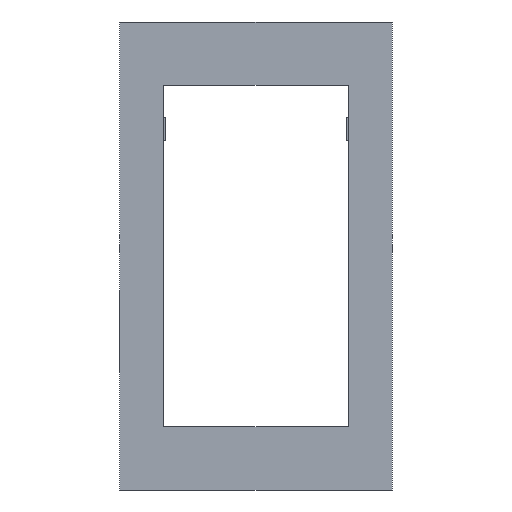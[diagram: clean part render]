
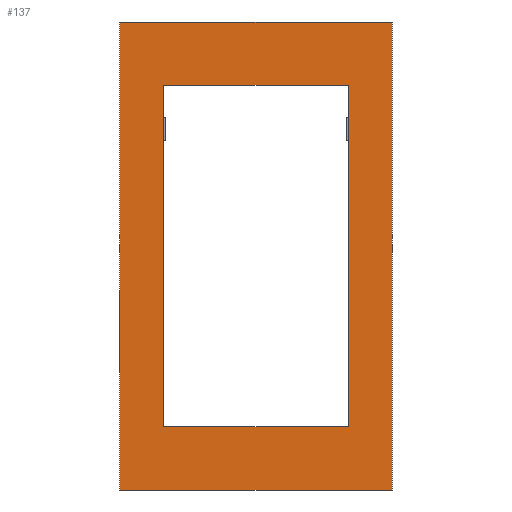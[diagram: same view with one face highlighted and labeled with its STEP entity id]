
A CAD part, front view. The second image highlights one B-rep face of the part: STEP entity #137.
In plain terms, the highlighted planar face has unit normal (0, -1, 0).
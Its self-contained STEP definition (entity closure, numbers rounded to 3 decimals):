
#21 = EDGE_CURVE('',#22,#24,#26,.T.);
#22 = VERTEX_POINT('',#23);
#23 = CARTESIAN_POINT('',(4.,78.4,18.));
#24 = VERTEX_POINT('',#25);
#25 = CARTESIAN_POINT('',(4.,78.4,77.));
#26 = SURFACE_CURVE('',#27,(#31,#43),.PCURVE_S1.);
#27 = LINE('',#28,#29);
#28 = CARTESIAN_POINT('',(4.,78.4,18.));
#29 = VECTOR('',#30,1.);
#30 = DIRECTION('',(0.,0.,1.));
#31 = PCURVE('',#32,#37);
#32 = PLANE('',#33);
#33 = AXIS2_PLACEMENT_3D('',#34,#35,#36);
#34 = CARTESIAN_POINT('',(4.,78.4,18.));
#35 = DIRECTION('',(1.,0.,0.));
#36 = DIRECTION('',(0.,0.,1.));
#37 = DEFINITIONAL_REPRESENTATION('',(#38),#42);
#38 = LINE('',#39,#40);
#39 = CARTESIAN_POINT('',(0.,0.));
#40 = VECTOR('',#41,1.);
#41 = DIRECTION('',(1.,0.));
#42 = ( GEOMETRIC_REPRESENTATION_CONTEXT(2) 
PARAMETRIC_REPRESENTATION_CONTEXT() REPRESENTATION_CONTEXT('2D SPACE',''
  ) );
#43 = PCURVE('',#44,#49);
#44 = PLANE('',#45);
#45 = AXIS2_PLACEMENT_3D('',#46,#47,#48);
#46 = CARTESIAN_POINT('',(4.,78.4,18.));
#47 = DIRECTION('',(0.,1.,0.));
#48 = DIRECTION('',(0.,0.,1.));
#49 = DEFINITIONAL_REPRESENTATION('',(#50),#54);
#50 = LINE('',#51,#52);
#51 = CARTESIAN_POINT('',(0.,0.));
#52 = VECTOR('',#53,1.);
#53 = DIRECTION('',(1.,0.));
#54 = ( GEOMETRIC_REPRESENTATION_CONTEXT(2) 
PARAMETRIC_REPRESENTATION_CONTEXT() REPRESENTATION_CONTEXT('2D SPACE',''
  ) );
#72 = PLANE('',#73);
#73 = AXIS2_PLACEMENT_3D('',#74,#75,#76);
#74 = CARTESIAN_POINT('',(4.,78.4,18.));
#75 = DIRECTION('',(0.,0.,1.));
#76 = DIRECTION('',(1.,0.,0.));
#126 = PLANE('',#127);
#127 = AXIS2_PLACEMENT_3D('',#128,#129,#130);
#128 = CARTESIAN_POINT('',(4.,78.4,77.));
#129 = DIRECTION('',(0.,0.,1.));
#130 = DIRECTION('',(1.,0.,0.));
#137 = ADVANCED_FACE('',(#138,#213),#44,.F.);
#138 = FACE_BOUND('',#139,.F.);
#139 = EDGE_LOOP('',(#140,#163,#164,#187));
#140 = ORIENTED_EDGE('',*,*,#141,.F.);
#141 = EDGE_CURVE('',#22,#142,#144,.T.);
#142 = VERTEX_POINT('',#143);
#143 = CARTESIAN_POINT('',(38.3,78.4,18.));
#144 = SURFACE_CURVE('',#145,(#149,#156),.PCURVE_S1.);
#145 = LINE('',#146,#147);
#146 = CARTESIAN_POINT('',(4.,78.4,18.));
#147 = VECTOR('',#148,1.);
#148 = DIRECTION('',(1.,0.,0.));
#149 = PCURVE('',#44,#150);
#150 = DEFINITIONAL_REPRESENTATION('',(#151),#155);
#151 = LINE('',#152,#153);
#152 = CARTESIAN_POINT('',(0.,0.));
#153 = VECTOR('',#154,1.);
#154 = DIRECTION('',(0.,1.));
#155 = ( GEOMETRIC_REPRESENTATION_CONTEXT(2) 
PARAMETRIC_REPRESENTATION_CONTEXT() REPRESENTATION_CONTEXT('2D SPACE',''
  ) );
#156 = PCURVE('',#72,#157);
#157 = DEFINITIONAL_REPRESENTATION('',(#158),#162);
#158 = LINE('',#159,#160);
#159 = CARTESIAN_POINT('',(0.,0.));
#160 = VECTOR('',#161,1.);
#161 = DIRECTION('',(1.,0.));
#162 = ( GEOMETRIC_REPRESENTATION_CONTEXT(2) 
PARAMETRIC_REPRESENTATION_CONTEXT() REPRESENTATION_CONTEXT('2D SPACE',''
  ) );
#163 = ORIENTED_EDGE('',*,*,#21,.T.);
#164 = ORIENTED_EDGE('',*,*,#165,.T.);
#165 = EDGE_CURVE('',#24,#166,#168,.T.);
#166 = VERTEX_POINT('',#167);
#167 = CARTESIAN_POINT('',(38.3,78.4,77.));
#168 = SURFACE_CURVE('',#169,(#173,#180),.PCURVE_S1.);
#169 = LINE('',#170,#171);
#170 = CARTESIAN_POINT('',(4.,78.4,77.));
#171 = VECTOR('',#172,1.);
#172 = DIRECTION('',(1.,0.,0.));
#173 = PCURVE('',#44,#174);
#174 = DEFINITIONAL_REPRESENTATION('',(#175),#179);
#175 = LINE('',#176,#177);
#176 = CARTESIAN_POINT('',(59.,0.));
#177 = VECTOR('',#178,1.);
#178 = DIRECTION('',(0.,1.));
#179 = ( GEOMETRIC_REPRESENTATION_CONTEXT(2) 
PARAMETRIC_REPRESENTATION_CONTEXT() REPRESENTATION_CONTEXT('2D SPACE',''
  ) );
#180 = PCURVE('',#126,#181);
#181 = DEFINITIONAL_REPRESENTATION('',(#182),#186);
#182 = LINE('',#183,#184);
#183 = CARTESIAN_POINT('',(0.,0.));
#184 = VECTOR('',#185,1.);
#185 = DIRECTION('',(1.,0.));
#186 = ( GEOMETRIC_REPRESENTATION_CONTEXT(2) 
PARAMETRIC_REPRESENTATION_CONTEXT() REPRESENTATION_CONTEXT('2D SPACE',''
  ) );
#187 = ORIENTED_EDGE('',*,*,#188,.F.);
#188 = EDGE_CURVE('',#142,#166,#189,.T.);
#189 = SURFACE_CURVE('',#190,(#194,#201),.PCURVE_S1.);
#190 = LINE('',#191,#192);
#191 = CARTESIAN_POINT('',(38.3,78.4,18.));
#192 = VECTOR('',#193,1.);
#193 = DIRECTION('',(0.,0.,1.));
#194 = PCURVE('',#44,#195);
#195 = DEFINITIONAL_REPRESENTATION('',(#196),#200);
#196 = LINE('',#197,#198);
#197 = CARTESIAN_POINT('',(0.,34.3));
#198 = VECTOR('',#199,1.);
#199 = DIRECTION('',(1.,0.));
#200 = ( GEOMETRIC_REPRESENTATION_CONTEXT(2) 
PARAMETRIC_REPRESENTATION_CONTEXT() REPRESENTATION_CONTEXT('2D SPACE',''
  ) );
#201 = PCURVE('',#202,#207);
#202 = PLANE('',#203);
#203 = AXIS2_PLACEMENT_3D('',#204,#205,#206);
#204 = CARTESIAN_POINT('',(38.3,78.4,18.));
#205 = DIRECTION('',(1.,0.,0.));
#206 = DIRECTION('',(0.,0.,1.));
#207 = DEFINITIONAL_REPRESENTATION('',(#208),#212);
#208 = LINE('',#209,#210);
#209 = CARTESIAN_POINT('',(0.,0.));
#210 = VECTOR('',#211,1.);
#211 = DIRECTION('',(1.,0.));
#212 = ( GEOMETRIC_REPRESENTATION_CONTEXT(2) 
PARAMETRIC_REPRESENTATION_CONTEXT() REPRESENTATION_CONTEXT('2D SPACE',''
  ) );
#213 = FACE_BOUND('',#214,.F.);
#214 = EDGE_LOOP('',(#215,#244,#272,#299));
#215 = ORIENTED_EDGE('',*,*,#216,.F.);
#216 = EDGE_CURVE('',#217,#219,#221,.T.);
#217 = VERTEX_POINT('',#218);
#218 = CARTESIAN_POINT('',(9.5,78.4,69.));
#219 = VERTEX_POINT('',#220);
#220 = CARTESIAN_POINT('',(32.8,78.4,69.));
#221 = SURFACE_CURVE('',#222,(#226,#233),.PCURVE_S1.);
#222 = LINE('',#223,#224);
#223 = CARTESIAN_POINT('',(6.,78.4,69.));
#224 = VECTOR('',#225,1.);
#225 = DIRECTION('',(1.,0.,0.));
#226 = PCURVE('',#44,#227);
#227 = DEFINITIONAL_REPRESENTATION('',(#228),#232);
#228 = LINE('',#229,#230);
#229 = CARTESIAN_POINT('',(51.,2.));
#230 = VECTOR('',#231,1.);
#231 = DIRECTION('',(0.,1.));
#232 = ( GEOMETRIC_REPRESENTATION_CONTEXT(2) 
PARAMETRIC_REPRESENTATION_CONTEXT() REPRESENTATION_CONTEXT('2D SPACE',''
  ) );
#233 = PCURVE('',#234,#239);
#234 = PLANE('',#235);
#235 = AXIS2_PLACEMENT_3D('',#236,#237,#238);
#236 = CARTESIAN_POINT('',(8.,78.3,69.));
#237 = DIRECTION('',(0.,0.,1.));
#238 = DIRECTION('',(1.,0.,0.));
#239 = DEFINITIONAL_REPRESENTATION('',(#240),#243);
#240 = B_SPLINE_CURVE_WITH_KNOTS('',1,(#241,#242),.UNSPECIFIED.,.F.,.F.,
  (2,2),(2.,28.3),.PIECEWISE_BEZIER_KNOTS.);
#241 = CARTESIAN_POINT('',(0.,0.1));
#242 = CARTESIAN_POINT('',(26.3,0.1));
#243 = ( GEOMETRIC_REPRESENTATION_CONTEXT(2) 
PARAMETRIC_REPRESENTATION_CONTEXT() REPRESENTATION_CONTEXT('2D SPACE',''
  ) );
#244 = ORIENTED_EDGE('',*,*,#245,.F.);
#245 = EDGE_CURVE('',#246,#217,#248,.T.);
#246 = VERTEX_POINT('',#247);
#247 = CARTESIAN_POINT('',(9.5,78.4,26.));
#248 = SURFACE_CURVE('',#249,(#253,#260),.PCURVE_S1.);
#249 = LINE('',#250,#251);
#250 = CARTESIAN_POINT('',(9.5,78.4,26.));
#251 = VECTOR('',#252,1.);
#252 = DIRECTION('',(0.,0.,1.));
#253 = PCURVE('',#44,#254);
#254 = DEFINITIONAL_REPRESENTATION('',(#255),#259);
#255 = LINE('',#256,#257);
#256 = CARTESIAN_POINT('',(8.,5.5));
#257 = VECTOR('',#258,1.);
#258 = DIRECTION('',(1.,0.));
#259 = ( GEOMETRIC_REPRESENTATION_CONTEXT(2) 
PARAMETRIC_REPRESENTATION_CONTEXT() REPRESENTATION_CONTEXT('2D SPACE',''
  ) );
#260 = PCURVE('',#261,#266);
#261 = PLANE('',#262);
#262 = AXIS2_PLACEMENT_3D('',#263,#264,#265);
#263 = CARTESIAN_POINT('',(9.5,78.4,26.));
#264 = DIRECTION('',(1.,0.,0.));
#265 = DIRECTION('',(0.,0.,1.));
#266 = DEFINITIONAL_REPRESENTATION('',(#267),#271);
#267 = LINE('',#268,#269);
#268 = CARTESIAN_POINT('',(0.,0.));
#269 = VECTOR('',#270,1.);
#270 = DIRECTION('',(1.,0.));
#271 = ( GEOMETRIC_REPRESENTATION_CONTEXT(2) 
PARAMETRIC_REPRESENTATION_CONTEXT() REPRESENTATION_CONTEXT('2D SPACE',''
  ) );
#272 = ORIENTED_EDGE('',*,*,#273,.T.);
#273 = EDGE_CURVE('',#246,#274,#276,.T.);
#274 = VERTEX_POINT('',#275);
#275 = CARTESIAN_POINT('',(32.8,78.4,26.));
#276 = SURFACE_CURVE('',#277,(#281,#288),.PCURVE_S1.);
#277 = LINE('',#278,#279);
#278 = CARTESIAN_POINT('',(6.,78.4,26.));
#279 = VECTOR('',#280,1.);
#280 = DIRECTION('',(1.,0.,0.));
#281 = PCURVE('',#44,#282);
#282 = DEFINITIONAL_REPRESENTATION('',(#283),#287);
#283 = LINE('',#284,#285);
#284 = CARTESIAN_POINT('',(8.,2.));
#285 = VECTOR('',#286,1.);
#286 = DIRECTION('',(0.,1.));
#287 = ( GEOMETRIC_REPRESENTATION_CONTEXT(2) 
PARAMETRIC_REPRESENTATION_CONTEXT() REPRESENTATION_CONTEXT('2D SPACE',''
  ) );
#288 = PCURVE('',#289,#294);
#289 = PLANE('',#290);
#290 = AXIS2_PLACEMENT_3D('',#291,#292,#293);
#291 = CARTESIAN_POINT('',(8.,78.3,26.));
#292 = DIRECTION('',(0.,0.,1.));
#293 = DIRECTION('',(1.,0.,0.));
#294 = DEFINITIONAL_REPRESENTATION('',(#295),#298);
#295 = B_SPLINE_CURVE_WITH_KNOTS('',1,(#296,#297),.UNSPECIFIED.,.F.,.F.,
  (2,2),(2.,28.3),.PIECEWISE_BEZIER_KNOTS.);
#296 = CARTESIAN_POINT('',(0.,0.1));
#297 = CARTESIAN_POINT('',(26.3,0.1));
#298 = ( GEOMETRIC_REPRESENTATION_CONTEXT(2) 
PARAMETRIC_REPRESENTATION_CONTEXT() REPRESENTATION_CONTEXT('2D SPACE',''
  ) );
#299 = ORIENTED_EDGE('',*,*,#300,.T.);
#300 = EDGE_CURVE('',#274,#219,#301,.T.);
#301 = SURFACE_CURVE('',#302,(#306,#313),.PCURVE_S1.);
#302 = LINE('',#303,#304);
#303 = CARTESIAN_POINT('',(32.8,78.4,26.));
#304 = VECTOR('',#305,1.);
#305 = DIRECTION('',(0.,0.,1.));
#306 = PCURVE('',#44,#307);
#307 = DEFINITIONAL_REPRESENTATION('',(#308),#312);
#308 = LINE('',#309,#310);
#309 = CARTESIAN_POINT('',(8.,28.8));
#310 = VECTOR('',#311,1.);
#311 = DIRECTION('',(1.,0.));
#312 = ( GEOMETRIC_REPRESENTATION_CONTEXT(2) 
PARAMETRIC_REPRESENTATION_CONTEXT() REPRESENTATION_CONTEXT('2D SPACE',''
  ) );
#313 = PCURVE('',#314,#319);
#314 = PLANE('',#315);
#315 = AXIS2_PLACEMENT_3D('',#316,#317,#318);
#316 = CARTESIAN_POINT('',(32.8,78.4,26.));
#317 = DIRECTION('',(1.,0.,0.));
#318 = DIRECTION('',(0.,0.,1.));
#319 = DEFINITIONAL_REPRESENTATION('',(#320),#324);
#320 = LINE('',#321,#322);
#321 = CARTESIAN_POINT('',(0.,0.));
#322 = VECTOR('',#323,1.);
#323 = DIRECTION('',(1.,0.));
#324 = ( GEOMETRIC_REPRESENTATION_CONTEXT(2) 
PARAMETRIC_REPRESENTATION_CONTEXT() REPRESENTATION_CONTEXT('2D SPACE',''
  ) );
